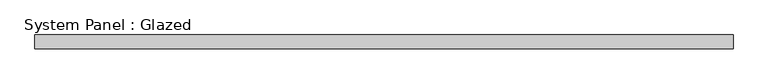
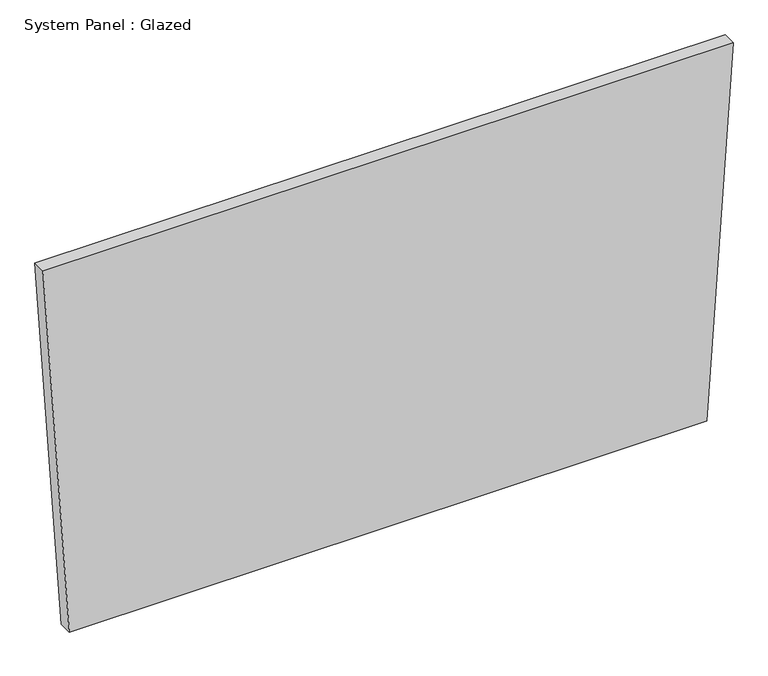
"""IFC4 building model written with IfcOpenShell, lengths in millimetres: plate geometry, System Panel : Glazed."""

from ifc_helpers import new_model, si_unit, frame, origin, place, context, project, spatial, polyline, outline, extrude, source, transform, mapped, element, save


def system_panel_glazed_b698644e(model_context):
    return source(origin(), model_context, "Body", "SweptSolid", [
        extrude(outline(polyline([(0.0, -589.5549911), (0.0008418, 589.5550326), (723.2683205, 638.2433218), (723.2680951, -638.2433218), (0.0, -589.5549911)])), frame((0.0, 19.05, 0.0), z_axis=(0.0, 1.0, 0.0), x_axis=(0.0, 0.0, 1.0)), (0.0, 0.0, 1.0), 25.4),
    ])


if __name__ == "__main__":
    model = new_model("IFC4")
    model_context = context("Model", 3, world=origin())
    ifc_project = project(units=[si_unit("LENGTHUNIT", "METRE", prefix="MILLI")], contexts=[model_context])
    site = spatial("IfcSite", under=ifc_project)
    building = spatial("IfcBuilding", under=site)
    placement = place(None, origin())
    system_panel_glazed_shape = system_panel_glazed_b698644e(model_context)
    element("IfcPlate", 1, ObjectType="System Panel : Glazed", at=placement, inside=building, context=model_context, shape_type="MappedRepresentation", body=[
        mapped(system_panel_glazed_shape, transform((0.0, 0.0, 0.0), x_axis=(1.0, 0.0, 0.0), y_axis=(0.0, 1.0, 0.0), z_axis=(0.0, 0.0, 1.0))),
    ])
    save(model, "model.ifc")
